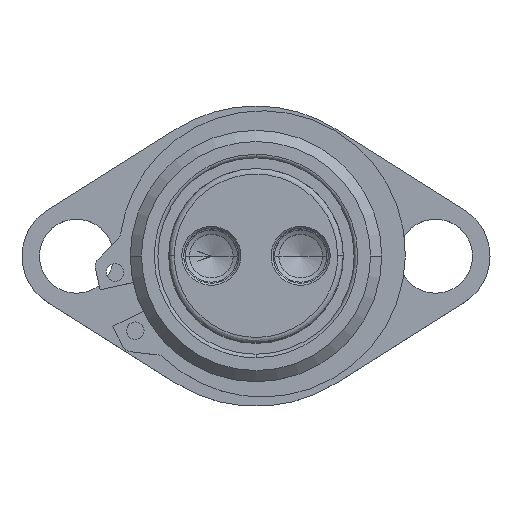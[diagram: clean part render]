
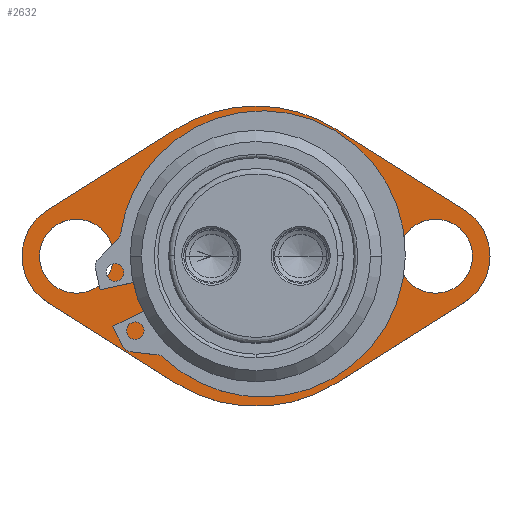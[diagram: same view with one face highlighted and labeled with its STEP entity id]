
A CAD part, top view. The second image highlights one B-rep face of the part: STEP entity #2632.
In plain terms, the highlighted planar face has unit normal (0, 0, 1) as drawn and (0, 1, 0) by its records, which use the part's own axes.
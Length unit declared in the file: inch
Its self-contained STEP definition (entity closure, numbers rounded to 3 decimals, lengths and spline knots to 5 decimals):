
#6 = DIRECTION ( 'NONE',  ( 0., -1., 0. ) ) ;
#93 = DIRECTION ( 'NONE',  ( 0., -1., 0. ) ) ;
#148 = LINE ( 'NONE', #3933, #5214 ) ;
#220 = CARTESIAN_POINT ( 'NONE',  ( 1.285, 0.25, 0. ) ) ;
#328 = VERTEX_POINT ( 'NONE', #658 ) ;
#334 = VERTEX_POINT ( 'NONE', #5325 ) ;
#409 = VERTEX_POINT ( 'NONE', #4395 ) ;
#432 = FACE_BOUND ( 'NONE', #2745, .T. ) ;
#557 = DIRECTION ( 'NONE',  ( 0.846, 0., 0.533 ) ) ;
#622 = ORIENTED_EDGE ( 'NONE', *, *, #3753, .T. ) ;
#658 = CARTESIAN_POINT ( 'NONE',  ( 0., 0.25, 0.9 ) ) ;
#715 = FACE_BOUND ( 'NONE', #5103, .T. ) ;
#792 = CARTESIAN_POINT ( 'NONE',  ( 1.4929, 0.25, 0.32997 ) ) ;
#847 = ORIENTED_EDGE ( 'NONE', *, *, #5355, .F. ) ;
#889 = DIRECTION ( 'NONE',  ( 0., -1., 0. ) ) ;
#924 = VERTEX_POINT ( 'NONE', #1957 ) ;
#966 = ORIENTED_EDGE ( 'NONE', *, *, #5458, .T. ) ;
#992 = ORIENTED_EDGE ( 'NONE', *, *, #1490, .F. ) ;
#996 = VERTEX_POINT ( 'NONE', #3747 ) ;
#1053 = AXIS2_PLACEMENT_3D ( 'NONE', #4551, #2302, #2288 ) ;
#1193 = CARTESIAN_POINT ( 'NONE',  ( -1.4929, 0.25, -0.32997 ) ) ;
#1195 = DIRECTION ( 'NONE',  ( 0., -1., 0. ) ) ;
#1199 = DIRECTION ( 'NONE',  ( 0., 0., -1. ) ) ;
#1308 = DIRECTION ( 'NONE',  ( 0., 0., -1. ) ) ;
#1398 = ORIENTED_EDGE ( 'NONE', *, *, #1456, .F. ) ;
#1401 = DIRECTION ( 'NONE',  ( 0., 0., 1. ) ) ;
#1449 = VERTEX_POINT ( 'NONE', #3647 ) ;
#1456 = EDGE_CURVE ( 'NONE', #924, #1918, #3649, .T. ) ;
#1477 = EDGE_LOOP ( 'NONE', ( #847, #4635, #5034, #966, #992, #622, #4925, #3557, #1398 ) ) ;
#1490 = EDGE_CURVE ( 'NONE', #334, #3590, #4627, .T. ) ;
#1511 = CIRCLE ( 'NONE', #1859, 0.265 ) ;
#1561 = CIRCLE ( 'NONE', #2135, 0.39 ) ;
#1582 = CARTESIAN_POINT ( 'NONE',  ( 0., 0.25, 0. ) ) ;
#1590 = LINE ( 'NONE', #1193, #4899 ) ;
#1600 = VERTEX_POINT ( 'NONE', #2865 ) ;
#1635 = DIRECTION ( 'NONE',  ( 0., -1., 0. ) ) ;
#1662 = CARTESIAN_POINT ( 'NONE',  ( 1.285, 0.25, 0. ) ) ;
#1797 = EDGE_CURVE ( 'NONE', #1449, #409, #1590, .T. ) ;
#1838 = LINE ( 'NONE', #4570, #5298 ) ;
#1859 = AXIS2_PLACEMENT_3D ( 'NONE', #220, #3888, #2533 ) ;
#1910 = CARTESIAN_POINT ( 'NONE',  ( 0.57305, 0.25, -0.90952 ) ) ;
#1918 = VERTEX_POINT ( 'NONE', #1910 ) ;
#1930 = CARTESIAN_POINT ( 'NONE',  ( -1.285, 0.25, 0. ) ) ;
#1957 = CARTESIAN_POINT ( 'NONE',  ( 0., 0.25, -1.075 ) ) ;
#2042 = DIRECTION ( 'NONE',  ( 0., -1., 0. ) ) ;
#2052 = ORIENTED_EDGE ( 'NONE', *, *, #2154, .T. ) ;
#2063 = CARTESIAN_POINT ( 'NONE',  ( -1.285, 0.25, 0.265 ) ) ;
#2067 = DIRECTION ( 'NONE',  ( 0., -1., 0. ) ) ;
#2112 = DIRECTION ( 'NONE',  ( 0., 0., -1. ) ) ;
#2123 = DIRECTION ( 'NONE',  ( 0., 0., -1. ) ) ;
#2135 = AXIS2_PLACEMENT_3D ( 'NONE', #2984, #2042, #1199 ) ;
#2154 = EDGE_CURVE ( 'NONE', #996, #3876, #1511, .T. ) ;
#2164 = CIRCLE ( 'NONE', #1053, 0.265 ) ;
#2288 = DIRECTION ( 'NONE',  ( 0., 0., -1. ) ) ;
#2302 = DIRECTION ( 'NONE',  ( 0., -1., 0. ) ) ;
#2372 = DIRECTION ( 'NONE',  ( 0., -1., 0. ) ) ;
#2419 = CARTESIAN_POINT ( 'NONE',  ( 0., 0.25, 0. ) ) ;
#2500 = EDGE_CURVE ( 'NONE', #4254, #1918, #3925, .T. ) ;
#2515 = VERTEX_POINT ( 'NONE', #2063 ) ;
#2533 = DIRECTION ( 'NONE',  ( 0., 0., -1. ) ) ;
#2597 = ORIENTED_EDGE ( 'NONE', *, *, #5292, .T. ) ;
#2632 = ADVANCED_FACE ( 'NONE', ( #5668, #4060, #715, #432 ), #2817, .T. ) ;
#2642 = AXIS2_PLACEMENT_3D ( 'NONE', #5771, #1195, #2112 ) ;
#2745 = EDGE_LOOP ( 'NONE', ( #2597, #4458 ) ) ;
#2817 = PLANE ( 'NONE',  #3500 ) ;
#2865 = CARTESIAN_POINT ( 'NONE',  ( 0., 0.25, -0.9 ) ) ;
#2901 = EDGE_CURVE ( 'NONE', #328, #1600, #5452, .T. ) ;
#2970 = CARTESIAN_POINT ( 'NONE',  ( 0., 0.25, 0. ) ) ;
#2984 = CARTESIAN_POINT ( 'NONE',  ( -1.285, 0.25, 0. ) ) ;
#2992 = EDGE_CURVE ( 'NONE', #4254, #4183, #3413, .T. ) ;
#3338 = AXIS2_PLACEMENT_3D ( 'NONE', #3783, #93, #5154 ) ;
#3413 = CIRCLE ( 'NONE', #4651, 0.39 ) ;
#3500 = AXIS2_PLACEMENT_3D ( 'NONE', #1930, #5539, #1401 ) ;
#3522 = EDGE_CURVE ( 'NONE', #2515, #5859, #2164, .T. ) ;
#3557 = ORIENTED_EDGE ( 'NONE', *, *, #2500, .T. ) ;
#3590 = VERTEX_POINT ( 'NONE', #5578 ) ;
#3647 = CARTESIAN_POINT ( 'NONE',  ( -0.57305, 0.25, -0.90952 ) ) ;
#3649 = CIRCLE ( 'NONE', #5824, 1.075 ) ;
#3747 = CARTESIAN_POINT ( 'NONE',  ( 1.285, 0.25, 0.265 ) ) ;
#3753 = EDGE_CURVE ( 'NONE', #334, #4183, #148, .T. ) ;
#3783 = CARTESIAN_POINT ( 'NONE',  ( 0., 0.25, 0. ) ) ;
#3846 = ORIENTED_EDGE ( 'NONE', *, *, #3891, .T. ) ;
#3876 = VERTEX_POINT ( 'NONE', #4481 ) ;
#3888 = DIRECTION ( 'NONE',  ( 0., -1., 0. ) ) ;
#3891 = EDGE_CURVE ( 'NONE', #3876, #996, #5313, .T. ) ;
#3905 = DIRECTION ( 'NONE',  ( -0.846, 0., -0.533 ) ) ;
#3925 = LINE ( 'NONE', #5690, #5532 ) ;
#3933 = CARTESIAN_POINT ( 'NONE',  ( 0.57305, 0.25, 0.90952 ) ) ;
#3947 = DIRECTION ( 'NONE',  ( 0., -1., 0. ) ) ;
#3964 = CIRCLE ( 'NONE', #2642, 1.075 ) ;
#3995 = CARTESIAN_POINT ( 'NONE',  ( -1.4929, 0.25, 0.32997 ) ) ;
#4042 = CIRCLE ( 'NONE', #4082, 0.265 ) ;
#4060 = FACE_OUTER_BOUND ( 'NONE', #1477, .T. ) ;
#4071 = CARTESIAN_POINT ( 'NONE',  ( 1.285, 0.25, 0. ) ) ;
#4082 = AXIS2_PLACEMENT_3D ( 'NONE', #5823, #6, #1308 ) ;
#4093 = DIRECTION ( 'NONE',  ( 0., 0., -1. ) ) ;
#4113 = CIRCLE ( 'NONE', #5849, 0.9 ) ;
#4122 = EDGE_CURVE ( 'NONE', #5351, #409, #1561, .T. ) ;
#4183 = VERTEX_POINT ( 'NONE', #792 ) ;
#4254 = VERTEX_POINT ( 'NONE', #4425 ) ;
#4365 = AXIS2_PLACEMENT_3D ( 'NONE', #2970, #2067, #5674 ) ;
#4395 = CARTESIAN_POINT ( 'NONE',  ( -1.4929, 0.25, -0.32997 ) ) ;
#4421 = EDGE_LOOP ( 'NONE', ( #5549, #4606 ) ) ;
#4425 = CARTESIAN_POINT ( 'NONE',  ( 1.4929, 0.25, -0.32997 ) ) ;
#4458 = ORIENTED_EDGE ( 'NONE', *, *, #2901, .T. ) ;
#4481 = CARTESIAN_POINT ( 'NONE',  ( 1.285, 0.25, -0.265 ) ) ;
#4530 = DIRECTION ( 'NONE',  ( 0.846, 0., -0.533 ) ) ;
#4551 = CARTESIAN_POINT ( 'NONE',  ( -1.285, 0.25, 0. ) ) ;
#4570 = CARTESIAN_POINT ( 'NONE',  ( -1.4929, 0.25, 0.32997 ) ) ;
#4606 = ORIENTED_EDGE ( 'NONE', *, *, #3522, .T. ) ;
#4616 = DIRECTION ( 'NONE',  ( 0., 0., -1. ) ) ;
#4627 = CIRCLE ( 'NONE', #3338, 1.075 ) ;
#4635 = ORIENTED_EDGE ( 'NONE', *, *, #1797, .T. ) ;
#4651 = AXIS2_PLACEMENT_3D ( 'NONE', #1662, #3947, #2123 ) ;
#4812 = AXIS2_PLACEMENT_3D ( 'NONE', #4071, #889, #4093 ) ;
#4853 = EDGE_CURVE ( 'NONE', #5859, #2515, #4042, .T. ) ;
#4899 = VECTOR ( 'NONE', #5273, 39.37008 ) ;
#4925 = ORIENTED_EDGE ( 'NONE', *, *, #2992, .F. ) ;
#5034 = ORIENTED_EDGE ( 'NONE', *, *, #4122, .F. ) ;
#5103 = EDGE_LOOP ( 'NONE', ( #3846, #2052 ) ) ;
#5154 = DIRECTION ( 'NONE',  ( 0., 0., -1. ) ) ;
#5199 = DIRECTION ( 'NONE',  ( 0., 0., -1. ) ) ;
#5214 = VECTOR ( 'NONE', #4530, 39.37008 ) ;
#5273 = DIRECTION ( 'NONE',  ( -0.846, 0., 0.533 ) ) ;
#5292 = EDGE_CURVE ( 'NONE', #1600, #328, #4113, .T. ) ;
#5298 = VECTOR ( 'NONE', #557, 39.37008 ) ;
#5313 = CIRCLE ( 'NONE', #4812, 0.265 ) ;
#5325 = CARTESIAN_POINT ( 'NONE',  ( 0.57305, 0.25, 0.90952 ) ) ;
#5351 = VERTEX_POINT ( 'NONE', #3995 ) ;
#5355 = EDGE_CURVE ( 'NONE', #1449, #924, #3964, .T. ) ;
#5452 = CIRCLE ( 'NONE', #4365, 0.9 ) ;
#5458 = EDGE_CURVE ( 'NONE', #5351, #3590, #1838, .T. ) ;
#5532 = VECTOR ( 'NONE', #3905, 39.37008 ) ;
#5539 = DIRECTION ( 'NONE',  ( 0., 1., 0. ) ) ;
#5549 = ORIENTED_EDGE ( 'NONE', *, *, #4853, .T. ) ;
#5578 = CARTESIAN_POINT ( 'NONE',  ( -0.57305, 0.25, 0.90952 ) ) ;
#5668 = FACE_BOUND ( 'NONE', #4421, .T. ) ;
#5674 = DIRECTION ( 'NONE',  ( 0., 0., -1. ) ) ;
#5690 = CARTESIAN_POINT ( 'NONE',  ( 0.57305, 0.25, -0.90952 ) ) ;
#5745 = CARTESIAN_POINT ( 'NONE',  ( -1.285, 0.25, -0.265 ) ) ;
#5771 = CARTESIAN_POINT ( 'NONE',  ( 0., 0.25, 0. ) ) ;
#5823 = CARTESIAN_POINT ( 'NONE',  ( -1.285, 0.25, 0. ) ) ;
#5824 = AXIS2_PLACEMENT_3D ( 'NONE', #2419, #2372, #4616 ) ;
#5849 = AXIS2_PLACEMENT_3D ( 'NONE', #1582, #1635, #5199 ) ;
#5859 = VERTEX_POINT ( 'NONE', #5745 ) ;
